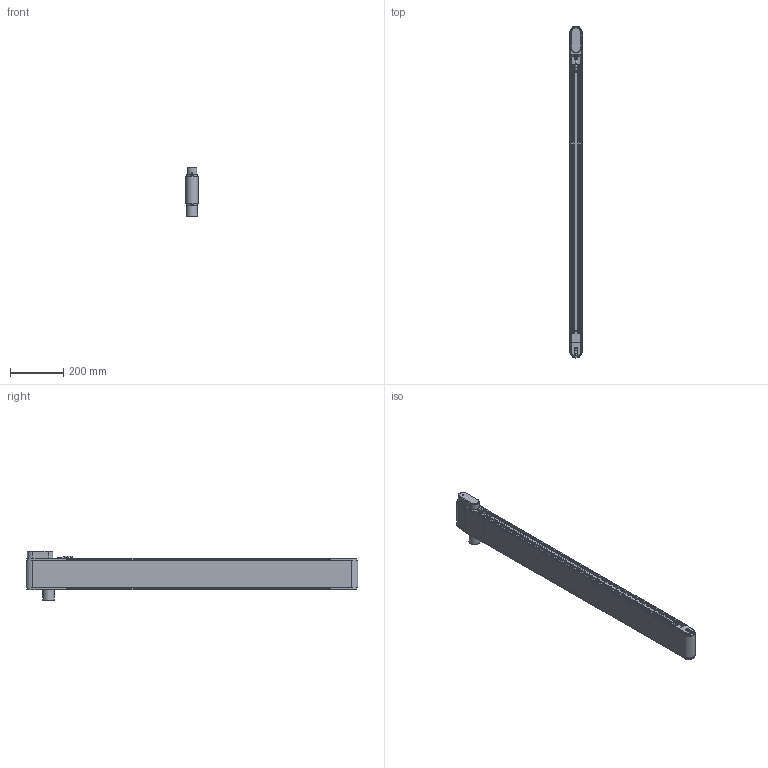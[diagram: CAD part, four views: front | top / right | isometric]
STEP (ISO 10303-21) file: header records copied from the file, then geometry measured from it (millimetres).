
FILE_DESCRIPTION(/* description */ (''),/* implementation_level */ '2;1');
FILE_NAME(/* name */ 'G:\DATEN\CAD\Förderband\Marketing\3D-Modelle (Standard)\FR-40-120-Q\FR-40-120-Q-1200-K (Motorendrohr 40 mm).stp',/* time_stamp */ '2019-05-09T08:41:50+02:00',/* author */ ('melanie.ochs'),/* organization */ (''),/* preprocessor_version */ 'ST-DEVELOPER v17',/* originating_system */ 'Autodesk Inventor 2019',/* authorisation */ '');
FILE_SCHEMA (('CONFIG_CONTROL_DESIGN'));
Length unit declared in the file: millimetre
Products named in the file (1): FR-40-120-Q-1200-K (Motorendrohr 40 mm)
Bounding box: 46.6 x 1246.6 x 185 mm (x, y, z)
Volume: 2458455.6 mm3; surface area: 1565228.2 mm2
Topology: 31 solids, 32 shells, 893 faces, 2421 edges, 1648 vertices
Faces by surface type: plane 445, cylinder 286, cone 71, bspline 61, torus 30
Full cylindrical faces by diameter (mm): 1 x6, 4 x6, 4.3 x4, 4.65 x1, 4.917 x1, 5 x11, 5.5 x8, 6 x2, 6.5 x1, 6.773 x1, 6.917 x2, 8 x7, 8.3 x20, 8.5 x8, 8.773 x1, 10 x1, 11 x1, 12 x3, 25 x2, 28 x4, 40.917 x1, 42 x1, 44 x2
Entity records: 29991 total; most frequent: CARTESIAN_POINT 6301, ORIENTED_EDGE 4806, DIRECTION 4688, EDGE_CURVE 2403, AXIS2_PLACEMENT_3D 1709, VERTEX_POINT 1648, LINE 1270, VECTOR 1270
